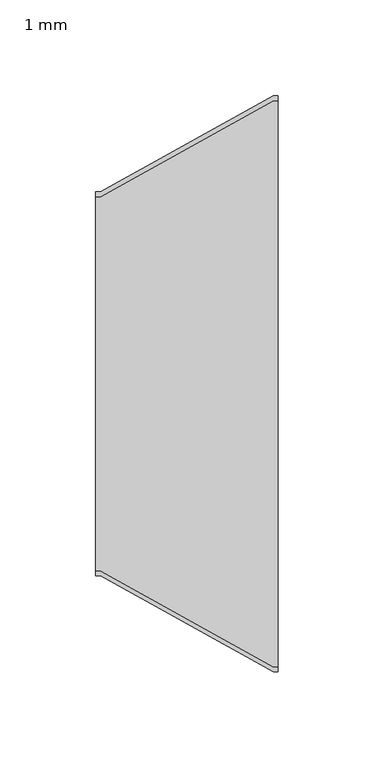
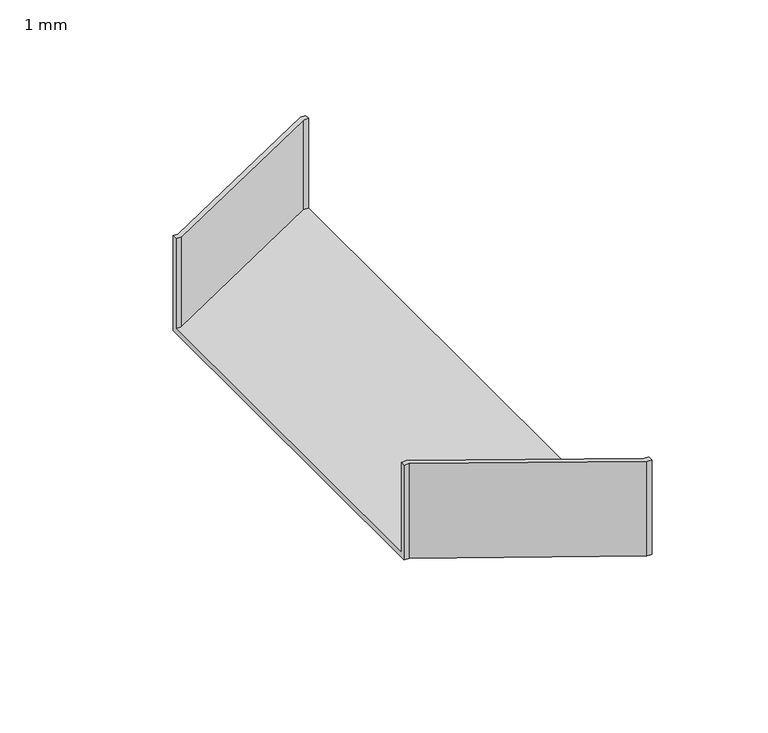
"""IFC4 building model written with IfcOpenShell, lengths in millimetres: cable carrier fitting geometry, BAKS_Redukcja : 1 mm."""

from ifc_helpers import new_model, si_unit, origin, place, context, project, spatial, faceted_brep, source, transform, mapped, element, save


def cable_carrier_fitting_1_mm_2a4d519b(model_context):
    return source(origin(), model_context, "Body", "Brep", [
        faceted_brep([(0.0, -100.0, -25.0), (0.0, -100.0, 25.0), (0.0, -97.46, 25.0), (0.0, -97.46, -22.46), (0.0, 97.46, -22.46), (0.0, 97.46, 25.0), (0.0, 100.0, 25.0), (0.0, 100.0, -25.0), (95.0, -150.0, -25.0), (95.0, 150.0, -25.0), (95.0, 150.0, 25.0), (95.0, 147.46, 25.0), (95.0, 147.46, -22.46), (95.0, -147.46, -22.46), (95.0, -147.46, 25.0), (95.0, -150.0, 25.0), (2.5, -100.0, -25.0), (2.5, -100.0, 25.0), (92.5, -150.0, 25.0), (92.5, -147.46, 25.0), (2.5, -97.46, 25.0), (2.5, -97.46, -22.46), (92.5, -147.46, -22.46), (92.5, 147.46, -22.46), (2.5, 97.46, -22.46), (2.5, 97.46, 25.0), (92.5, 147.46, 25.0), (92.5, 150.0, 25.0), (2.5, 100.0, 25.0), (2.5, 100.0, -25.0), (92.5, 150.0, -25.0), (92.5, -150.0, -25.0)], [[[0, 1, 2, 3, 4, 5, 6, 7]], [[8, 9, 10, 11, 12, 13, 14, 15]], [[1, 0, 16, 17]], [[2, 1, 17, 18, 15, 14, 19, 20]], [[3, 2, 20, 21]], [[4, 3, 21, 22, 13, 12, 23, 24]], [[5, 4, 24, 25]], [[6, 5, 25, 26, 11, 10, 27, 28]], [[7, 6, 28, 29]], [[0, 7, 29, 30, 9, 8, 31, 16]], [[8, 15, 18, 31]], [[14, 13, 22, 19]], [[12, 11, 26, 23]], [[10, 9, 30, 27]], [[30, 29, 28, 27]], [[26, 25, 24, 23]], [[22, 21, 20, 19]], [[16, 31, 18, 17]]]),
    ])


if __name__ == "__main__":
    model = new_model("IFC4")
    model_context = context("Model", 3, world=origin())
    ifc_project = project(units=[si_unit("LENGTHUNIT", "METRE", prefix="MILLI")], contexts=[model_context])
    site = spatial("IfcSite", under=ifc_project)
    building = spatial("IfcBuilding", under=site)
    placement = place(None, origin())
    cable_carrier_fitting_1_mm_shape = cable_carrier_fitting_1_mm_2a4d519b(model_context)
    element("IfcCableCarrierFitting", 1, ObjectType="BAKS_Redukcja : 1 mm", at=placement, inside=building, context=model_context, shape_type="MappedRepresentation", body=[
        mapped(cable_carrier_fitting_1_mm_shape, transform((0.0, 0.0, 0.0), x_axis=(1.0, 0.0, 0.0), y_axis=(0.0, 1.0, 0.0), z_axis=(0.0, 0.0, 1.0))),
    ])
    save(model, "model.ifc")
